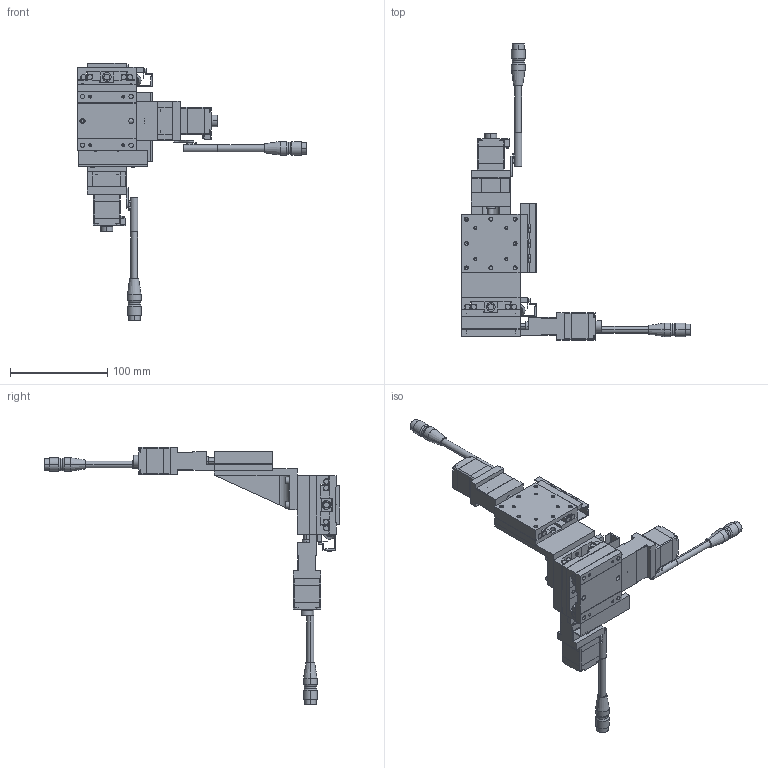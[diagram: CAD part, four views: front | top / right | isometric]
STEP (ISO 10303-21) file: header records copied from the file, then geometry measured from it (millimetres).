
FILE_DESCRIPTION(('STEP AP203'),'1');
FILE_NAME('C:/3D-Trans/3D_PMZG615T-R□-C+240129.step','2024-02-27T01:11:13',(' '),(' '),'Spatial InterOp 3D',' ',' ');
FILE_SCHEMA(('CONFIG_CONTROL_DESIGN'));
Length unit declared in the file: millimetre
Products named in the file (19): 1; 2; 3; 4; 5; 6; 7; 8; 9; 10; 11; 12; 13; 14; 15; 16; 17; 18; 19
Bounding box: 235 x 304 x 264 mm (x, y, z)
Volume: 419994.6 mm3; surface area: 180209.2 mm2
Topology: 19 solids, 19 shells, 2021 faces, 5059 edges, 3204 vertices
Faces by surface type: plane 1142, cylinder 661, cone 218
Entity records: 60727 total; most frequent: DIRECTION 10685, CARTESIAN_POINT 10261, ORIENTED_EDGE 9998, EDGE_CURVE 4999, AXIS2_PLACEMENT_3D 3652, LINE 3381, VECTOR 3381, VERTEX_POINT 3204
